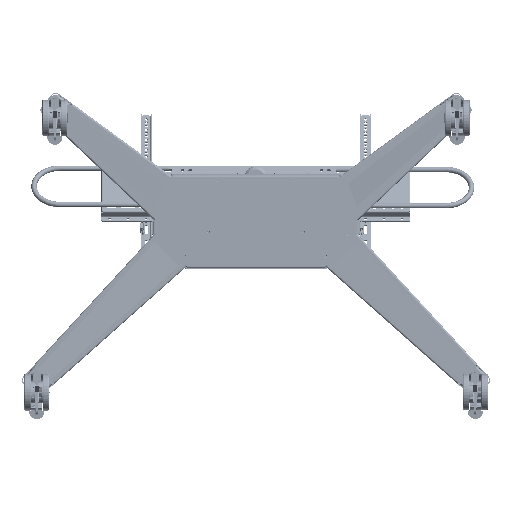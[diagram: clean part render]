
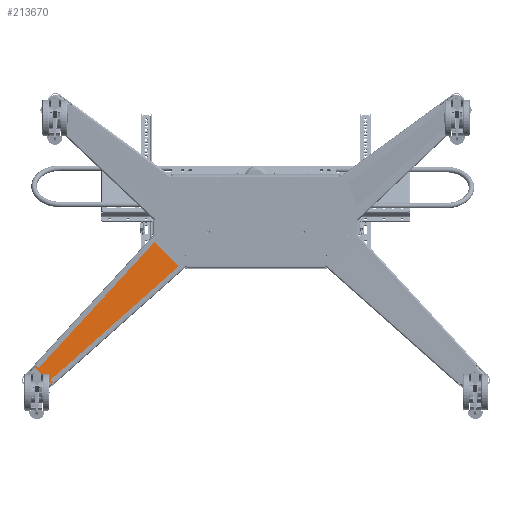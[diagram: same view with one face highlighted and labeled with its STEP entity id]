
A CAD part, left-side view. The second image highlights one B-rep face of the part: STEP entity #213670.
In plain terms, the highlighted planar face has unit normal (-0.999, -0.034, 0.033) as drawn and (0.034, -0.999, 0.033) by its records, which use the part's own axes.
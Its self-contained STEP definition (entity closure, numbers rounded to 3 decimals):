
#211303=CARTESIAN_POINT('',(-273.485,51.496,
-28.513));
#211381=CARTESIAN_POINT('',(-192.036,51.505,
-111.107));
#211404=CARTESIAN_POINT('',(-192.879,51.496,
-110.538));
#211707=DIRECTION('',(0.701,0.,-0.713));
#211708=VECTOR('',#211707,41.477);
#211709=CARTESIAN_POINT('',(-632.435,25.731,
-432.798));
#211710=LINE('',#211709,#211708);
#211776=DIRECTION('',(0.712,0.048,0.7));
#211777=VECTOR('',#211776,0.147);
#211778=CARTESIAN_POINT('',(-603.363,25.731,
-462.382));
#211779=LINE('',#211778,#211777);
#211785=DIRECTION('',(0.676,0.048,0.735));
#211786=VECTOR('',#211785,531.126);
#211787=CARTESIAN_POINT('',(-632.632,26.187,
-418.982));
#211788=LINE('',#211787,#211786);
#211789=CARTESIAN_POINT('',(-273.485,51.496,
-28.513));
#211790=CARTESIAN_POINT('',(-273.475,51.497,
-28.503));
#211791=CARTESIAN_POINT('',(-273.458,51.498,
-28.481));
#211792=CARTESIAN_POINT('',(-273.427,51.5,
-28.453));
#211793=CARTESIAN_POINT('',(-273.407,51.502,
-28.433));
#211794=CARTESIAN_POINT('',(-273.396,51.502,
-28.423));
#211796=CARTESIAN_POINT('',(-192.036,51.505,
-111.107));
#211797=CARTESIAN_POINT('',(-192.062,51.504,
-111.129));
#211798=CARTESIAN_POINT('',(-192.1,51.503,
-111.137));
#211799=CARTESIAN_POINT('',(-192.168,51.503,
-111.073));
#211800=CARTESIAN_POINT('',(-192.241,51.502,
-111.024));
#211801=CARTESIAN_POINT('',(-192.323,51.501,
-110.964));
#211802=CARTESIAN_POINT('',(-192.414,51.5,
-110.9));
#211803=CARTESIAN_POINT('',(-192.514,51.499,
-110.827));
#211804=CARTESIAN_POINT('',(-192.624,51.498,
-110.744));
#211805=CARTESIAN_POINT('',(-192.745,51.497,
-110.649));
#211806=CARTESIAN_POINT('',(-192.833,51.497,
-110.576));
#211807=CARTESIAN_POINT('',(-192.879,51.496,
-110.538));
#211809=DIRECTION('',(-0.747,-0.048,
-0.663));
#211810=VECTOR('',#211809,531.125);
#211811=CARTESIAN_POINT('',(-192.879,51.496,
-110.538));
#211812=LINE('',#211811,#211810);
#211813=DIRECTION('',(-0.664,0.002,0.748));
#211814=VECTOR('',#211813,0.103);
#211815=CARTESIAN_POINT('',(-589.555,26.187,
-462.818));
#211816=LINE('',#211815,#211814);
#211817=CARTESIAN_POINT('',(-589.623,26.187,
-462.741));
#211818=CARTESIAN_POINT('',(-590.456,26.136,
-463.43));
#211819=CARTESIAN_POINT('',(-592.138,26.042,
-464.516));
#211820=CARTESIAN_POINT('',(-594.536,25.937,
-465.207));
#211821=CARTESIAN_POINT('',(-597.446,25.834,
-465.334));
#211822=CARTESIAN_POINT('',(-600.679,25.755,
-464.379));
#211823=CARTESIAN_POINT('',(-602.413,25.739,
-463.108));
#211824=CARTESIAN_POINT('',(-603.259,25.738,
-462.279));
#211826=DIRECTION('',(0.712,0.048,0.7));
#211827=VECTOR('',#211826,0.147);
#211828=CARTESIAN_POINT('',(-632.435,25.731,
-432.798));
#211829=LINE('',#211828,#211827);
#211830=CARTESIAN_POINT('',(-632.33,25.738,
-432.695));
#211831=CARTESIAN_POINT('',(-633.081,25.74,
-431.879));
#211832=CARTESIAN_POINT('',(-634.272,25.755,
-430.211));
#211833=CARTESIAN_POINT('',(-635.099,25.811,
-427.698));
#211834=CARTESIAN_POINT('',(-635.286,25.904,
-424.732));
#211835=CARTESIAN_POINT('',(-634.438,26.038,
-421.593));
#211836=CARTESIAN_POINT('',(-633.304,26.134,
-419.886));
#211837=CARTESIAN_POINT('',(-632.554,26.187,
-419.052));
#211839=CARTESIAN_POINT('',(-632.554,26.187,
-419.052));
#211840=CARTESIAN_POINT('',(-632.58,26.187,
-419.029));
#211841=CARTESIAN_POINT('',(-632.607,26.187,
-419.006));
#211842=CARTESIAN_POINT('',(-632.632,26.187,
-418.982));
#211844=CARTESIAN_POINT('',(-192.036,51.505,
-111.107));
#211845=CARTESIAN_POINT('',(-195.249,51.504,
-107.88));
#211846=CARTESIAN_POINT('',(-201.653,51.504,
-101.4));
#211847=CARTESIAN_POINT('',(-211.217,51.504,
-91.642));
#211848=CARTESIAN_POINT('',(-217.621,51.503,
-85.158));
#211849=CARTESIAN_POINT('',(-220.826,51.502,
-81.917));
#211851=DIRECTION('',(-0.701,0.,0.713));
#211852=VECTOR('',#211851,75.002);
#211853=CARTESIAN_POINT('',(-220.826,51.502,
-81.917));
#211854=LINE('',#211853,#211852);
#212508=VERTEX_POINT('',#211303);
#212509=CARTESIAN_POINT('',(-632.632,26.187,
-418.982));
#212510=VERTEX_POINT('',#212509);
#212515=CARTESIAN_POINT('',(-273.397,51.502,
-28.423));
#212516=VERTEX_POINT('',#212515);
#212522=VERTEX_POINT('',#211381);
#212528=VERTEX_POINT('',#211404);
#212571=CARTESIAN_POINT('',(-589.555,26.187,
-462.818));
#212572=VERTEX_POINT('',#212571);
#212573=CARTESIAN_POINT('',(-589.623,26.187,
-462.741));
#212574=VERTEX_POINT('',#212573);
#212593=CARTESIAN_POINT('',(-632.435,25.731,
-432.798));
#212594=VERTEX_POINT('',#212593);
#212595=CARTESIAN_POINT('',(-603.363,25.731,
-462.382));
#212596=VERTEX_POINT('',#212595);
#212599=CARTESIAN_POINT('',(-632.33,25.738,
-432.695));
#212600=VERTEX_POINT('',#212599);
#212601=CARTESIAN_POINT('',(-603.259,25.738,
-462.279));
#212602=VERTEX_POINT('',#212601);
#212603=CARTESIAN_POINT('',(-220.826,51.502,
-81.917));
#212604=VERTEX_POINT('',#212603);
#212605=VERTEX_POINT('',#211837);
#213645=CARTESIAN_POINT('',(-285.641,51.503,
-15.928));
#213646=DIRECTION('',(0.034,-0.999,0.033));
#213647=DIRECTION('',(-0.712,-0.048,
-0.7));
#213648=AXIS2_PLACEMENT_3D('',#213645,#213646,#213647);
#213649=PLANE('',#213648);
#213650=ORIENTED_EDGE('',*,*,#212919,.T.);
#213651=ORIENTED_EDGE('',*,*,#212979,.T.);
#213653=ORIENTED_EDGE('',*,*,#213652,.F.);
#213655=ORIENTED_EDGE('',*,*,#213654,.F.);
#213656=ORIENTED_EDGE('',*,*,#213092,.T.);
#213657=ORIENTED_EDGE('',*,*,#213302,.T.);
#213658=ORIENTED_EDGE('',*,*,#213320,.T.);
#213660=ORIENTED_EDGE('',*,*,#213659,.T.);
#213661=ORIENTED_EDGE('',*,*,#213636,.F.);
#213662=ORIENTED_EDGE('',*,*,#213515,.F.);
#213663=ORIENTED_EDGE('',*,*,#213534,.T.);
#213665=ORIENTED_EDGE('',*,*,#213664,.T.);
#213667=ORIENTED_EDGE('',*,*,#213666,.T.);
#213668=EDGE_LOOP('',(#213650,#213651,#213653,#213655,#213656,#213657,#213658,
#213660,#213661,#213662,#213663,#213665,#213667));
#213669=FACE_OUTER_BOUND('',#213668,.F.);
#213670=ADVANCED_FACE('',(#213669),#213649,.T.);
#211795=B_SPLINE_CURVE_WITH_KNOTS('',3,(#211789,#211790,#211791,#211792,#211793,
#211794),.UNSPECIFIED.,.F.,.F.,(4,1,1,4),(0.,0.333,
0.667,1.),.UNSPECIFIED.);
#211808=B_SPLINE_CURVE_WITH_KNOTS('',3,(#211796,#211797,#211798,#211799,#211800,
#211801,#211802,#211803,#211804,#211805,#211806,#211807),.UNSPECIFIED.,.F.,.F.,(
4,1,1,1,1,1,1,1,1,4),(0.,0.111,0.222,
0.333,0.444,0.556,0.667,
0.778,0.889,1.),.UNSPECIFIED.);
#211825=B_SPLINE_CURVE_WITH_KNOTS('',3,(#211817,#211818,#211819,#211820,#211821,
#211822,#211823,#211824),.UNSPECIFIED.,.F.,.F.,(4,1,1,1,1,4),(0.,
0.198,0.399,0.6,0.8,1.),
.UNSPECIFIED.);
#211838=B_SPLINE_CURVE_WITH_KNOTS('',3,(#211830,#211831,#211832,#211833,#211834,
#211835,#211836,#211837),.UNSPECIFIED.,.F.,.F.,(4,1,1,1,1,4),(0.,
0.198,0.399,0.6,0.8,1.),
.UNSPECIFIED.);
#211843=B_SPLINE_CURVE_WITH_KNOTS('',3,(#211839,#211840,#211841,#211842),
.UNSPECIFIED.,.F.,.F.,(4,4),(0.,1.),.UNSPECIFIED.);
#211850=B_SPLINE_CURVE_WITH_KNOTS('',3,(#211844,#211845,#211846,#211847,#211848,
#211849),.UNSPECIFIED.,.F.,.F.,(4,1,1,4),(0.,0.333,
0.667,1.),.UNSPECIFIED.);
#212919=EDGE_CURVE('',#212510,#212508,#211788,.T.);
#212979=EDGE_CURVE('',#212508,#212516,#211795,.T.);
#213092=EDGE_CURVE('',#212522,#212528,#211808,.T.);
#213302=EDGE_CURVE('',#212528,#212572,#211812,.T.);
#213320=EDGE_CURVE('',#212572,#212574,#211816,.T.);
#213515=EDGE_CURVE('',#212594,#212596,#211710,.T.);
#213534=EDGE_CURVE('',#212594,#212600,#211829,.T.);
#213636=EDGE_CURVE('',#212596,#212602,#211779,.T.);
#213652=EDGE_CURVE('',#212604,#212516,#211854,.T.);
#213654=EDGE_CURVE('',#212522,#212604,#211850,.T.);
#213659=EDGE_CURVE('',#212574,#212602,#211825,.T.);
#213664=EDGE_CURVE('',#212600,#212605,#211838,.T.);
#213666=EDGE_CURVE('',#212605,#212510,#211843,.T.);
